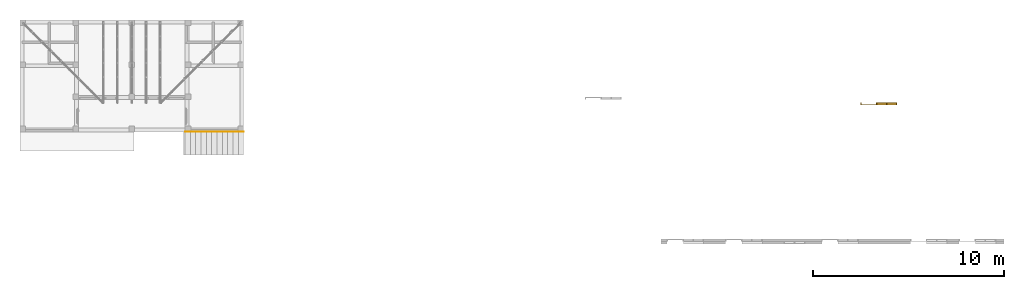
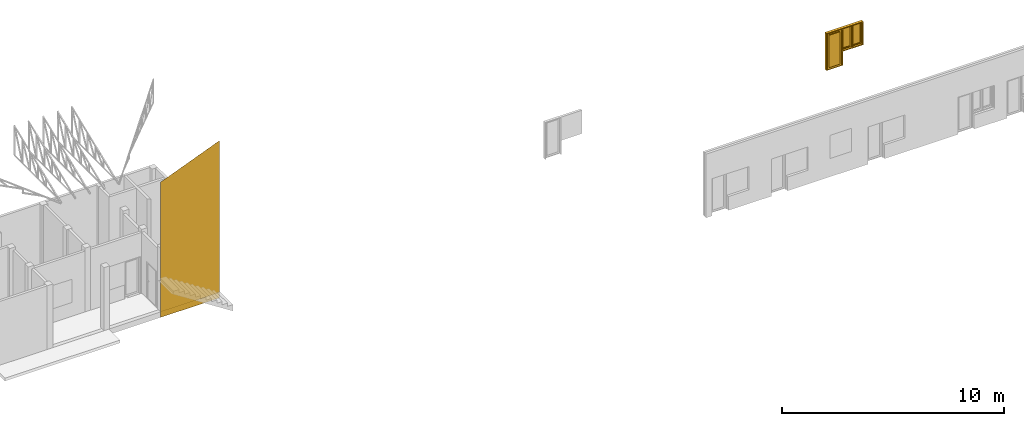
# One storey, part 10 of 10: 2 coverings, 1 door.
"""IFC4X3_ADD2 building model written with IfcOpenShell, lengths in millimetres."""

from ifc_helpers import new_model, entity, si_unit, converted_unit, frame, origin_with_axes, origin_2d_with_axis, place, context, subcontext, project, spatial, line, indexed_curve, outline, extrude, clip, halfspace, polygons, source, transform, mapped, material, layer, layer_set, layer_usage, type_object, type_shapes, element, save


model = new_model("IFC4X3_ADD2")

# Units and contexts
model_context = context("Model", 3, precision=1e-05, world=origin_with_axes())
plan_context = context("Plan", 2, precision=1e-05, world=origin_2d_with_axis())
body_context = subcontext(model_context, "Body", "Model", "MODEL_VIEW")
ifc_project = project(units=[si_unit("VOLUMEUNIT", "CUBIC_METRE"), si_unit("LENGTHUNIT", "METRE", prefix="MILLI"), converted_unit("PLANEANGLEUNIT", "degree", entity("IfcReal", 0.0174532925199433), si_unit("PLANEANGLEUNIT", "RADIAN"), dimensions=[0, 0, 0, 0, 0, 0, 0]), si_unit("AREAUNIT", "SQUARE_METRE")], contexts=[model_context, plan_context])

# Site, building, storey
site_placement = place(None, origin_with_axes())
site = spatial("IfcSite", under=ifc_project, at=site_placement, Name="My Site")
building_placement = place(site_placement, origin_with_axes())
building = spatial("IfcBuilding", under=site, at=building_placement, Name="My Building")
storey_placement = place(building_placement, origin_with_axes())
storey = spatial("IfcBuildingStorey", under=building, at=storey_placement, Name="Lantai 1")

# Door
door_type = type_object("IfcDoorType", Name="xxxx", OperationType="NOTDEFINED", PredefinedType="DOOR")
shared_shape = source(origin_with_axes(), body_context, "Body", "Tessellation", [
    polygons([(0.0, 130.000091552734, 1999.99926757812), (0.0, 130.000091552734, 0.0), (40.0009078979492, 130.000091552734, 0.0), (40.0009078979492, 130.000091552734, 1999.99926757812), (40.0009078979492, 130.000091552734, 2039.99987792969), (0.0, 130.000091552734, 2039.99987792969), (810.001281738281, 130.000091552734, 1999.99926757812), (810.001281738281, 130.000091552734, 2039.99987792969), (849.998352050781, 130.000091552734, 1999.99926757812), (849.998352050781, 130.000091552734, 2039.99987792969), (810.001281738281, 130.000091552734, 759.999877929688), (810.001281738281, 130.000091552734, 0.0), (849.998352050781, 130.000091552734, 0.0), (849.998352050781, 130.000091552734, 759.999877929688), (1349.99829101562, 130.000091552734, 1999.99926757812), (1349.99829101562, 130.000091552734, 2039.99987792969), (1380.00085449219, 130.000091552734, 1999.99926757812), (1380.00085449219, 130.000091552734, 2039.99987792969), (1349.99829101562, 130.000091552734, 799.999816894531), (1380.00085449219, 130.000091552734, 799.999816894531), (1880.00085449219, 129.999633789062, 1999.99926757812), (1880.00085449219, 129.999633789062, 2039.99987792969), (1919.99792480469, 129.999633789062, 1999.99926757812), (1919.99792480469, 129.999633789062, 2039.99987792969), (1880.00085449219, 129.999633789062, 799.999816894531), (1919.99792480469, 129.999633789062, 799.999816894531), (1880.00085449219, 129.999633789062, 759.999877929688), (1919.99792480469, 129.999633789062, 759.999877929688), (1349.99829101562, 130.000091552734, 759.999877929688), (1380.00085449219, 130.000091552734, 759.999877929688), (810.001281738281, 130.000091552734, 799.999816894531), (849.998352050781, 130.000091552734, 799.999816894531), (0.0, 0.0, 0.0), (40.0009078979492, 0.0, 1999.99926757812), (40.0009078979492, 0.0, 0.0), (0.0, 0.0, 1999.99926757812), (0.0, 0.0, 2039.99987792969), (40.0009078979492, 0.0, 2039.99987792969), (810.001281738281, 0.0, 2039.99987792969), (810.001281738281, 0.0, 1999.99926757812), (849.998352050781, 0.0, 2039.99987792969), (849.998352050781, 0.0, 1999.99926757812), (810.001281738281, 0.0, 0.0), (810.001281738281, 0.0, 759.999877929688), (849.998352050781, 0.0, 759.999877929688), (849.998352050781, 0.0, 0.0), (1349.99829101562, 0.0, 2039.99987792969), (1349.99829101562, 0.0, 1999.99926757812), (1380.00085449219, 0.0, 2039.99987792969), (1380.00085449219, 0.0, 1999.99926757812), (1349.99829101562, 0.0, 799.999816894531), (1380.00085449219, 0.0, 799.999816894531), (1880.00085449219, 0.0, 2039.99987792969), (1880.00085449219, 0.0, 1999.99926757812), (1919.99792480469, 0.0, 2039.99987792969), (1919.99792480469, 0.0, 1999.99926757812), (1880.00085449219, 0.0, 799.999816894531), (1919.99792480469, 0.0, 799.999816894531), (1880.00085449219, 0.0, 759.999877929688), (1919.99792480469, 0.0, 759.999877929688), (1349.99829101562, 0.0, 759.999877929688), (1380.00085449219, 0.0, 759.999877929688), (810.001281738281, 0.0, 799.999816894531), (849.998352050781, 0.0, 799.999816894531)], [[[3, 1, 2]], [[3, 4, 1]], [[6, 4, 5]], [[6, 1, 4]], [[5, 4, 7]], [[7, 8, 5]], [[7, 9, 8]], [[9, 10, 8]], [[13, 11, 12]], [[13, 14, 11]], [[10, 9, 15]], [[15, 16, 10]], [[15, 17, 16]], [[17, 18, 16]], [[20, 15, 19]], [[15, 20, 17]], [[18, 17, 21]], [[18, 21, 22]], [[21, 23, 22]], [[23, 24, 22]], [[26, 21, 25]], [[21, 26, 23]], [[28, 25, 27]], [[25, 28, 26]], [[30, 19, 29]], [[19, 30, 20]], [[11, 14, 31]], [[31, 14, 32]], [[32, 7, 31]], [[7, 32, 9]], [[14, 29, 19]], [[32, 14, 19]], [[25, 20, 27]], [[20, 30, 27]], [[34, 35, 33]], [[36, 34, 33]], [[38, 36, 37]], [[36, 38, 34]], [[39, 34, 38]], [[39, 40, 34]], [[39, 41, 40]], [[41, 42, 40]], [[45, 43, 44]], [[45, 46, 43]], [[42, 41, 47]], [[47, 48, 42]], [[47, 49, 48]], [[49, 50, 48]], [[48, 50, 51]], [[51, 50, 52]], [[50, 49, 53]], [[53, 54, 50]], [[53, 55, 54]], [[55, 56, 54]], [[54, 56, 57]], [[57, 56, 58]], [[57, 58, 59]], [[59, 58, 60]], [[51, 52, 61]], [[61, 52, 62]], [[64, 44, 63]], [[44, 64, 45]], [[40, 42, 63]], [[63, 42, 64]], [[45, 64, 51]], [[51, 61, 45]], [[62, 52, 57]], [[62, 57, 59]], [[15, 48, 19]], [[48, 51, 19]], [[52, 17, 20]], [[17, 52, 50]], [[41, 8, 10]], [[8, 41, 39]], [[21, 17, 50]], [[54, 21, 50]], [[13, 12, 43]], [[43, 46, 13]], [[11, 44, 12]], [[12, 44, 43]], [[3, 35, 4]], [[4, 35, 34]], [[53, 18, 22]], [[18, 53, 49]], [[7, 40, 31]], [[40, 63, 31]], [[1, 36, 2]], [[2, 36, 33]], [[24, 23, 56]], [[24, 56, 55]], [[13, 46, 14]], [[14, 46, 45]], [[63, 11, 31]], [[11, 63, 44]], [[3, 2, 33]], [[33, 35, 3]], [[55, 22, 24]], [[22, 55, 53]], [[15, 9, 42]], [[48, 15, 42]], [[64, 9, 32]], [[9, 64, 42]], [[38, 6, 5]], [[6, 38, 37]], [[47, 10, 16]], [[10, 47, 41]], [[21, 54, 25]], [[54, 57, 25]], [[29, 14, 45]], [[61, 29, 45]], [[37, 1, 6]], [[1, 37, 36]], [[58, 23, 26]], [[23, 58, 56]], [[32, 19, 51]], [[64, 32, 51]], [[30, 29, 61]], [[61, 62, 30]], [[49, 16, 18]], [[16, 49, 47]], [[62, 27, 30]], [[27, 62, 59]], [[7, 4, 34]], [[40, 7, 34]], [[28, 27, 59]], [[59, 60, 28]], [[57, 20, 25]], [[20, 57, 52]], [[39, 5, 8]], [[5, 39, 38]], [[60, 26, 28]], [[26, 60, 58]]]),
    polygons([(1349.99829101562, 99.9998931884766, 1939.99938964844), (1349.99829101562, 130.000091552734, 1939.99938964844), (1349.99829101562, 130.000091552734, 1999.99926757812), (1349.99829101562, 99.9998931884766, 859.999694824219), (1349.99829101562, 99.9998931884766, 1999.99926757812), (1290.00073242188, 99.9998931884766, 1939.99938964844), (1290.00073242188, 99.9998931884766, 859.999694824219), (909.999755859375, 99.9998931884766, 859.999694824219), (909.999755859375, 130.000091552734, 859.999694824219), (909.999755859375, 99.9998931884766, 799.999694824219), (1290.00073242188, 99.9998931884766, 799.999694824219), (1290.00073242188, 130.000091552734, 859.999694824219), (1290.00073242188, 130.000091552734, 799.999694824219), (1349.99829101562, 130.000091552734, 799.999694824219), (1349.99829101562, 130.000091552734, 859.999694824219), (1290.00073242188, 130.000091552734, 1939.99938964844), (1290.00073242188, 130.000091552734, 1999.99926757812), (909.999755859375, 130.000091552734, 1999.99926757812), (909.999755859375, 130.000091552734, 1939.99938964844), (909.999755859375, 99.9998931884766, 1939.99938964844), (1290.00073242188, 99.9998931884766, 1999.99926757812), (909.999755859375, 99.9998931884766, 1999.99926757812), (849.998352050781, 99.9998931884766, 1939.99938964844), (849.998352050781, 99.9998931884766, 859.999694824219), (849.998352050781, 130.000091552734, 859.999694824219), (849.998352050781, 99.9998931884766, 799.999694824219), (849.998352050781, 130.000091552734, 799.999694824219), (909.999755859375, 130.000091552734, 799.999694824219), (849.998352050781, 130.000091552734, 1939.99938964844), (849.998352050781, 130.000091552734, 1999.99926757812), (849.998352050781, 99.9998931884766, 1999.99926757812), (1349.99829101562, 99.9998931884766, 799.999694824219)], [[[2, 4, 1]], [[1, 3, 2]], [[3, 1, 5]], [[7, 1, 4]], [[6, 5, 1]], [[6, 1, 7]], [[10, 8, 7]], [[8, 9, 7]], [[9, 12, 7]], [[10, 7, 11]], [[4, 11, 7]], [[12, 6, 7]], [[9, 13, 12]], [[14, 12, 13]], [[14, 15, 12]], [[15, 16, 12]], [[16, 6, 12]], [[15, 2, 16]], [[2, 17, 16]], [[18, 16, 17]], [[18, 19, 16]], [[16, 19, 20]], [[16, 20, 6]], [[20, 21, 6]], [[21, 20, 22]], [[23, 22, 20]], [[23, 20, 24]], [[24, 20, 8]], [[19, 8, 20]], [[25, 23, 24]], [[25, 24, 27]], [[27, 24, 26]], [[26, 24, 8]], [[26, 28, 27]], [[28, 25, 27]], [[13, 28, 10]], [[10, 28, 26]], [[9, 28, 13]], [[28, 9, 25]], [[8, 10, 26]], [[29, 23, 25]], [[25, 9, 29]], [[31, 29, 30]], [[30, 29, 19]], [[9, 19, 29]], [[29, 31, 23]], [[23, 31, 22]], [[31, 30, 22]], [[22, 30, 18]], [[19, 18, 30]], [[22, 18, 21]], [[17, 5, 21]], [[5, 6, 21]], [[18, 17, 21]], [[9, 8, 19]], [[17, 2, 3]], [[5, 17, 3]], [[15, 4, 2]], [[15, 32, 4]], [[14, 32, 15]], [[11, 4, 32]], [[32, 14, 11]], [[11, 14, 13]], [[13, 10, 11]]]),
    polygons([(139.999359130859, 39.9999542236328, 119.999992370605), (709.998962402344, 39.9999542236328, 119.999992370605), (139.999359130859, 0.0, 119.999992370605), (139.999359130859, 0.0, 1899.99914550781), (139.999359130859, 39.9999542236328, 1899.99914550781), (40.0009078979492, 39.9999542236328, 119.999992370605), (40.0009078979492, 39.9999542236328, 0.0), (139.999359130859, 39.9999542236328, 0.0), (139.999359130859, 0.0, 0.0), (709.998962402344, 0.0, 0.0), (709.998962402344, 39.9999542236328, 0.0), (809.997436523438, 0.0, 0.0), (809.997436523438, 39.9999542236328, 0.0), (809.997436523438, 39.9999542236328, 119.999992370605), (809.997436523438, 0.0, 119.999992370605), (809.997436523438, 0.0, 1899.99914550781), (809.997436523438, 39.9999542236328, 1899.99914550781), (809.997436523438, 0.0, 1999.99926757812), (809.997436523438, 39.9999542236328, 1999.99926757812), (709.998962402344, 39.9999542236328, 1899.99914550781), (709.998962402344, 39.9999542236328, 1999.99926757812), (709.998962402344, 0.0, 1899.99914550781), (709.998962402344, 0.0, 119.999992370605), (709.998962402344, 0.0, 1999.99926757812), (139.999359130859, 0.0, 1999.99926757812), (139.999359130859, 39.9999542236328, 1999.99926757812), (40.0009078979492, 0.0, 1999.99926757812), (40.0009078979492, 39.9999542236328, 1999.99926757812), (40.0009078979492, 0.0, 1899.99914550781), (40.0009078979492, 0.0, 119.999992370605), (40.0009078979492, 39.9999542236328, 1899.99914550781), (40.0009078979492, 0.0, 0.0)], [[[8, 1, 2]], [[2, 1, 3]], [[1, 4, 3]], [[5, 4, 1]], [[5, 1, 6]], [[1, 7, 6]], [[7, 1, 8]], [[9, 7, 8]], [[9, 8, 10]], [[10, 8, 11]], [[8, 2, 11]], [[11, 12, 10]], [[11, 13, 12]], [[11, 14, 13]], [[2, 14, 11]], [[14, 15, 13]], [[14, 16, 15]], [[17, 16, 14]], [[2, 17, 14]], [[17, 18, 16]], [[19, 18, 17]], [[19, 17, 20]], [[20, 17, 2]], [[21, 19, 20]], [[5, 21, 20]], [[22, 5, 20]], [[20, 23, 22]], [[2, 23, 20]], [[10, 23, 3]], [[23, 2, 3]], [[10, 12, 23]], [[23, 12, 15]], [[23, 15, 22]], [[22, 15, 16]], [[22, 16, 24]], [[25, 22, 24]], [[25, 4, 22]], [[4, 5, 22]], [[24, 21, 25]], [[25, 21, 26]], [[25, 26, 27]], [[27, 4, 25]], [[29, 4, 27]], [[27, 26, 28]], [[28, 29, 27]], [[29, 3, 4]], [[30, 3, 29]], [[31, 30, 29]], [[29, 28, 31]], [[26, 5, 31]], [[26, 31, 28]], [[6, 30, 31]], [[31, 5, 6]], [[9, 3, 30]], [[32, 9, 30]], [[6, 32, 30]], [[7, 32, 6]], [[32, 7, 9]], [[21, 5, 26]], [[24, 16, 18]], [[18, 19, 24]], [[24, 19, 21]], [[13, 15, 12]], [[3, 9, 10]]]),
    polygons([(139.999359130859, 35.000316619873, 119.999992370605), (709.998962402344, 34.9998397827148, 119.999992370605), (139.999359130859, 5.00011348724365, 119.999992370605), (139.999359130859, 5.00011348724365, 1899.99914550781), (139.999359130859, 35.000316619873, 1899.99914550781), (709.998962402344, 5.00011348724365, 1899.99914550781), (709.998962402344, 34.9998397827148, 1899.99914550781), (709.998962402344, 5.00011348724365, 119.999992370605)], [[[5, 1, 2]], [[2, 1, 3]], [[1, 4, 3]], [[5, 4, 1]], [[4, 5, 6]], [[6, 5, 7]], [[2, 7, 5]], [[7, 8, 6]], [[2, 8, 7]], [[3, 6, 8]], [[8, 2, 3]], [[6, 3, 4]]]),
    polygons([(1290.00073242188, 130.000091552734, 1939.99938964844), (909.999755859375, 130.000091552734, 1939.99938964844), (1290.00073242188, 124.999984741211, 1939.99938964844), (1290.00073242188, 124.999984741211, 859.999694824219), (1290.00073242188, 130.000091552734, 859.999694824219), (909.999755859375, 124.999984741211, 859.999694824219), (909.999755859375, 130.000091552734, 859.999694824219), (909.999755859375, 124.999984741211, 1939.99938964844)], [[[2, 5, 1]], [[2, 1, 3]], [[1, 4, 3]], [[5, 4, 1]], [[5, 6, 4]], [[6, 5, 7]], [[7, 5, 2]], [[7, 8, 6]], [[2, 8, 7]], [[8, 3, 6]], [[8, 2, 3]], [[6, 3, 4]]]),
    polygons([(1879.9970703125, 99.9998931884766, 1939.99938964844), (1879.9970703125, 129.999633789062, 1939.99938964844), (1879.9970703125, 129.999633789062, 1999.99926757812), (1879.9970703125, 99.9998931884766, 859.999694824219), (1879.9970703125, 99.9998931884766, 1999.99926757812), (1819.99951171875, 99.9998931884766, 1939.99938964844), (1819.99951171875, 99.9998931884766, 859.999694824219), (1439.99841308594, 99.9998931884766, 859.999694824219), (1439.99841308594, 130.000091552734, 859.999694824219), (1439.99841308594, 99.9998931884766, 799.999694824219), (1819.99951171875, 99.9998931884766, 799.999694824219), (1819.99951171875, 129.999633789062, 859.999694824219), (1819.99951171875, 129.999633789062, 799.999694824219), (1879.9970703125, 129.999633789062, 799.999694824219), (1879.9970703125, 129.999633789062, 859.999694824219), (1819.99951171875, 129.999633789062, 1939.99938964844), (1819.99951171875, 129.999633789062, 1999.99926757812), (1439.99841308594, 130.000091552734, 1999.99926757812), (1439.99841308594, 130.000091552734, 1939.99938964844), (1439.99841308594, 99.9998931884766, 1939.99938964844), (1819.99951171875, 99.9998931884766, 1999.99926757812), (1439.99841308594, 99.9998931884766, 1999.99926757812), (1379.9970703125, 99.9998931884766, 1939.99938964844), (1379.9970703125, 99.9998931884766, 859.999694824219), (1379.9970703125, 130.000091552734, 859.999694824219), (1379.9970703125, 99.9998931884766, 799.999694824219), (1379.9970703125, 130.000091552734, 799.999694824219), (1439.99841308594, 130.000091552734, 799.999694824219), (1379.9970703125, 130.000091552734, 1939.99938964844), (1379.9970703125, 130.000091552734, 1999.99926757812), (1379.9970703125, 99.9998931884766, 1999.99926757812), (1879.9970703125, 99.9998931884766, 799.999694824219)], [[[2, 4, 1]], [[1, 3, 2]], [[3, 1, 5]], [[7, 1, 4]], [[6, 5, 1]], [[6, 1, 7]], [[10, 8, 7]], [[8, 9, 7]], [[9, 12, 7]], [[10, 7, 11]], [[4, 11, 7]], [[12, 6, 7]], [[14, 12, 13]], [[12, 9, 13]], [[14, 15, 12]], [[15, 16, 12]], [[16, 6, 12]], [[15, 2, 16]], [[2, 17, 16]], [[17, 18, 16]], [[18, 19, 16]], [[16, 19, 20]], [[16, 20, 6]], [[20, 21, 6]], [[21, 20, 22]], [[23, 22, 20]], [[23, 20, 24]], [[24, 20, 8]], [[19, 8, 20]], [[25, 23, 24]], [[25, 24, 27]], [[27, 24, 26]], [[26, 24, 8]], [[26, 28, 27]], [[28, 25, 27]], [[13, 28, 10]], [[10, 28, 26]], [[9, 28, 13]], [[28, 9, 25]], [[8, 10, 26]], [[29, 23, 25]], [[25, 9, 29]], [[31, 29, 30]], [[30, 29, 19]], [[9, 19, 29]], [[29, 31, 23]], [[23, 31, 22]], [[31, 30, 22]], [[22, 30, 18]], [[19, 18, 30]], [[22, 18, 21]], [[17, 5, 21]], [[5, 6, 21]], [[18, 17, 21]], [[9, 8, 19]], [[17, 2, 3]], [[5, 17, 3]], [[15, 4, 2]], [[15, 32, 4]], [[14, 32, 15]], [[11, 4, 32]], [[32, 14, 11]], [[11, 14, 13]], [[13, 10, 11]]]),
    polygons([(1819.99951171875, 129.999633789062, 1939.99938964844), (1439.99841308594, 130.000091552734, 1939.99938964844), (1819.99951171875, 124.999984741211, 1939.99938964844), (1819.99951171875, 124.999984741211, 859.999694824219), (1819.99951171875, 129.999633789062, 859.999694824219), (1439.99841308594, 124.999984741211, 859.999694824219), (1439.99841308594, 130.000091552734, 859.999694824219), (1439.99841308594, 124.999984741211, 1939.99938964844)], [[[1, 2, 5]], [[2, 1, 3]], [[1, 4, 3]], [[5, 4, 1]], [[5, 6, 4]], [[6, 5, 7]], [[2, 7, 5]], [[7, 8, 6]], [[2, 8, 7]], [[8, 3, 6]], [[8, 2, 3]], [[6, 3, 4]]]),
])
type_shapes(door_type, [shared_shape])
door_placement = place(storey_placement, frame((43959.9304199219, 1255.28717041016, 0.0), z_axis=(0.0, 0.0, 1.0), x_axis=(1.0, 0.0, 0.0)))
element("IfcDoor", 1, at=door_placement, inside=storey, type_object=door_type, Name="Door", context=body_context, shape_type="MappedRepresentation", body=[
    mapped(shared_shape, transform((0.0, 0.0, 0.0), x_axis=(1.0, 0.0, 0.0), y_axis=(0.0, 1.0, 0.0), z_axis=(0.0, 0.0, 1.0), scale=1.0)),
])

# Coverings
ifc_material = material(Name="plester")
ifc_layer = layer(ifc_material, 1.0)
ifc_layer_set = layer_set([ifc_layer])
ifc_layer_usage_1 = layer_usage(ifc_layer_set, "AXIS2", "POSITIVE", 0.0)
covering_type = type_object("IfcCoveringType", Name="cat", PredefinedType="CLADDING", material=ifc_layer_set)
covering_1_placement = place(storey_placement, frame((11590.0001525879, -150.000005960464, -300.000011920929), z_axis=(0.0, 0.0, 1.0), x_axis=(-0.999999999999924, 3.89414367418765e-07, 0.0)))
element("IfcCovering", 2, at=covering_1_placement, inside=storey, type_object=covering_type, material=ifc_layer_usage_1, Name="Covering", context=body_context, shape_type="Clipping", body=[
    clip(extrude(outline(indexed_curve([(0.0, 0.0), (0.0, 1.0), (3070.00016426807, 1.0), (3070.00016426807, 0.0)], segments=[line(1, 2, 3, 4, 1)])), origin_with_axes(), (0.0, 0.0, 1.0), 8650.00057220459), halfspace(frame((2504.15966796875, 53.7790908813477, 7658.6513671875), z_axis=(0.368086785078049, 1.11526310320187e-06, 0.929791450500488), x_axis=(-0.929791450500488, -3.62074160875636e-07, 0.368086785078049)), False)),
])
ifc_layer_usage_2 = layer_usage(ifc_layer_set, "AXIS2", "POSITIVE", 0.0)
covering_2_placement = place(storey_placement, frame((8520.00045776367, -150.000005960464, 0.0), z_axis=(0.0, 0.0, 1.0), x_axis=(1.0, 0.0, 0.0)))
element("IfcCovering", 3, at=covering_2_placement, inside=storey, type_object=covering_type, material=ifc_layer_usage_2, Name="Covering", context=body_context, shape_type="Clipping", body=[
    clip(extrude(outline(indexed_curve([(0.0, 0.0), (0.0, 1.0), (3069.99969830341, 1.0), (3069.99969830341, 0.0)], segments=[line(1, 2, 3, 4, 1)])), origin_with_axes(), (0.0, 0.0, 1.0), 8650.00057220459), halfspace(frame((1865.3935546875, 544.130676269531, 7873.1181640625), z_axis=(-0.368086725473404, -8.45433660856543e-08, 0.929791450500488), x_axis=(-0.929791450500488, -3.02964508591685e-07, -0.368086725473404)), False)),
])

save(model, "model.ifc")
